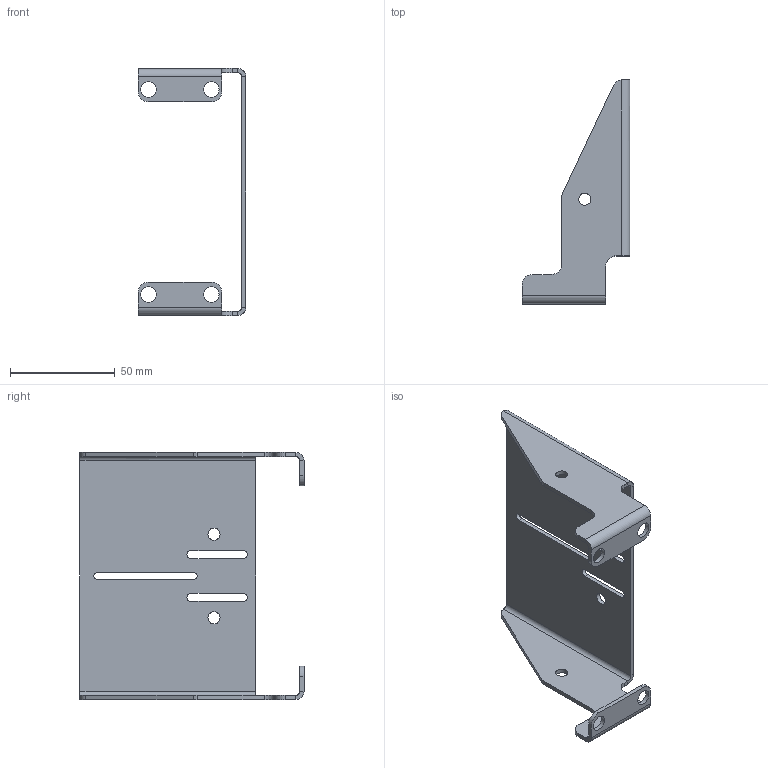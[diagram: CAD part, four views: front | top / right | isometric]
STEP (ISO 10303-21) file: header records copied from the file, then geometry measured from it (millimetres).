
FILE_DESCRIPTION (( 'STEP AP214' ), '1' );
FILE_NAME ('03018.01 Camera Mount SRL-10.STEP', '2023-06-02T08:59:59', ( '' ), ( '' ), 'SwSTEP 2.0', 'SolidWorks 2022', '' );
FILE_SCHEMA (( 'AUTOMOTIVE_DESIGN' ));
Length unit declared in the file: millimetre
Products named in the file (1): 03018.01 Camera Mount SRL-10
Bounding box: 51.5 x 107 x 118 mm (x, y, z)
Volume: 30479.1 mm3; surface area: 32616.3 mm2
Topology: 1 solids, 1 shells, 80 faces, 206 edges, 128 vertices
Faces by surface type: plane 44, cylinder 36
Full cylindrical faces by diameter (mm): 5.8 x4, 7.4 x4
Entity records: 2460 total; most frequent: DIRECTION 428, CARTESIAN_POINT 419, ORIENTED_EDGE 396, EDGE_CURVE 198, AXIS2_PLACEMENT_3D 153, VERTEX_POINT 128, LINE 122, VECTOR 122
